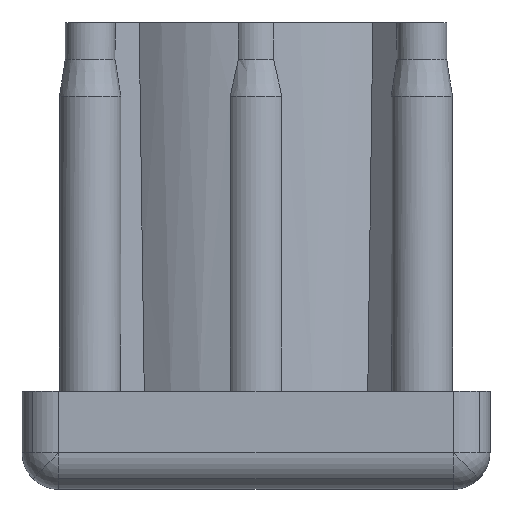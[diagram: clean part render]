
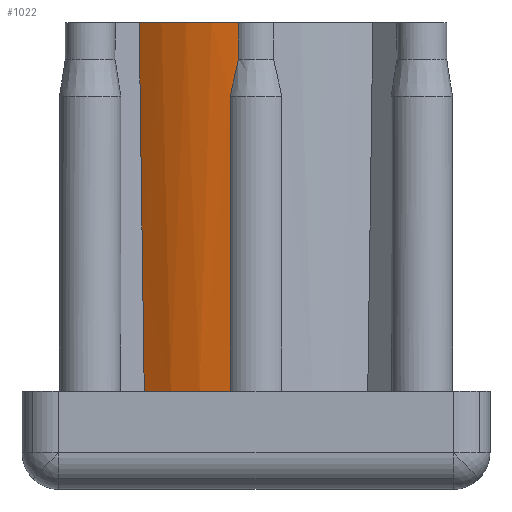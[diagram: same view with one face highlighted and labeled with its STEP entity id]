
A CAD part, front view. The second image highlights one B-rep face of the part: STEP entity #1022.
In plain terms, the highlighted cylindrical face has radius 15 mm (diameter 30 mm), a partial arc.
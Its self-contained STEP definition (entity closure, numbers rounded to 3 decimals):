
#58 = CIRCLE ( 'NONE', #1416, 48254.36 ) ;
#100 = DIRECTION ( 'NONE',  ( 0., 0., 1. ) ) ;
#159 = EDGE_CURVE ( 'NONE', #3052, #3146, #514, .T. ) ;
#210 = ORIENTED_EDGE ( 'NONE', *, *, #1707, .F. ) ;
#269 = DIRECTION ( 'NONE',  ( -1., 0., 0. ) ) ;
#290 = VERTEX_POINT ( 'NONE', #3672 ) ;
#363 = ORIENTED_EDGE ( 'NONE', *, *, #159, .T. ) ;
#372 = CARTESIAN_POINT ( 'NONE',  ( -9.511, -11.599, 37.25 ) ) ;
#378 = AXIS2_PLACEMENT_3D ( 'NONE', #1736, #543, #269 ) ;
#427 = CARTESIAN_POINT ( 'NONE',  ( -1.856, -14.887, 32.442 ) ) ;
#444 = EDGE_CURVE ( 'NONE', #805, #290, #1760, .T. ) ;
#474 = AXIS2_PLACEMENT_3D ( 'NONE', #1509, #1553, #2699 ) ;
#514 = LINE ( 'NONE', #2935, #3097 ) ;
#543 = DIRECTION ( 'NONE',  ( 0., 0., -1. ) ) ;
#674 = DIRECTION ( 'NONE',  ( 0.707, -0.707, 0.017 ) ) ;
#699 = CYLINDRICAL_SURFACE ( 'NONE', #378, 15. ) ;
#713 = ORIENTED_EDGE ( 'NONE', *, *, #444, .T. ) ;
#749 = EDGE_CURVE ( 'NONE', #3390, #3052, #2421, .T. ) ;
#776 = CARTESIAN_POINT ( 'NONE',  ( 0., 0., 7.25 ) ) ;
#805 = VERTEX_POINT ( 'NONE', #3626 ) ;
#809 = ORIENTED_EDGE ( 'NONE', *, *, #2227, .T. ) ;
#1022 = ADVANCED_FACE ( 'NONE', ( #2668 ), #699, .T. ) ;
#1071 = ORIENTED_EDGE ( 'NONE', *, *, #749, .T. ) ;
#1378 = DIRECTION ( 'NONE',  ( 1., 0., 0. ) ) ;
#1416 = AXIS2_PLACEMENT_3D ( 'NONE', #3020, #674, #3327 ) ;
#1509 = CARTESIAN_POINT ( 'NONE',  ( 0., 0., 37.25 ) ) ;
#1547 = ORIENTED_EDGE ( 'NONE', *, *, #3347, .T. ) ;
#1553 = DIRECTION ( 'NONE',  ( 0., 0., 1. ) ) ;
#1707 = EDGE_CURVE ( 'NONE', #3561, #3146, #3494, .T. ) ;
#1736 = CARTESIAN_POINT ( 'NONE',  ( 0., 0., 37.25 ) ) ;
#1760 = CIRCLE ( 'NONE', #2304, 15. ) ;
#1916 = CARTESIAN_POINT ( 'NONE',  ( -1.432, -14.931, 37.25 ) ) ;
#2150 = CARTESIAN_POINT ( 'NONE',  ( -1.632, -14.912, 33.442 ) ) ;
#2227 = EDGE_CURVE ( 'NONE', #3561, #805, #58, .T. ) ;
#2304 = AXIS2_PLACEMENT_3D ( 'NONE', #776, #3130, #1378 ) ;
#2384 = CARTESIAN_POINT ( 'NONE',  ( -2.103, -14.852, 31.25 ) ) ;
#2421 = B_SPLINE_CURVE_WITH_KNOTS ( 'NONE', 3,
 ( #3359, #427, #2150, #3023 ),
 .UNSPECIFIED., .F., .F.,
 ( 4, 4 ),
 ( 0., 1. ),
 .UNSPECIFIED. ) ;
#2668 = FACE_OUTER_BOUND ( 'NONE', #3618, .T. ) ;
#2699 = DIRECTION ( 'NONE',  ( 1., 0., 0. ) ) ;
#2752 = VECTOR ( 'NONE', #3245, 1000. ) ;
#2935 = CARTESIAN_POINT ( 'NONE',  ( -1.432, -14.931, 35.75 ) ) ;
#3020 = CARTESIAN_POINT ( 'NONE',  ( 34110.396, 34110.363, 120.499 ) ) ;
#3023 = CARTESIAN_POINT ( 'NONE',  ( -1.432, -14.931, 34.25 ) ) ;
#3052 = VERTEX_POINT ( 'NONE', #3633 ) ;
#3097 = VECTOR ( 'NONE', #100, 1000. ) ;
#3130 = DIRECTION ( 'NONE',  ( 0., 0., 1. ) ) ;
#3146 = VERTEX_POINT ( 'NONE', #1916 ) ;
#3245 = DIRECTION ( 'NONE',  ( 0., 0., 1. ) ) ;
#3327 = DIRECTION ( 'NONE',  ( -0.707, -0.707, -0.002 ) ) ;
#3347 = EDGE_CURVE ( 'NONE', #290, #3390, #3538, .T. ) ;
#3359 = CARTESIAN_POINT ( 'NONE',  ( -2.103, -14.852, 31.25 ) ) ;
#3390 = VERTEX_POINT ( 'NONE', #2384 ) ;
#3440 = CARTESIAN_POINT ( 'NONE',  ( -2.103, -14.852, 22.25 ) ) ;
#3494 = CIRCLE ( 'NONE', #474, 15. ) ;
#3538 = LINE ( 'NONE', #3440, #2752 ) ;
#3561 = VERTEX_POINT ( 'NONE', #372 ) ;
#3618 = EDGE_LOOP ( 'NONE', ( #210, #809, #713, #1547, #1071, #363 ) ) ;
#3626 = CARTESIAN_POINT ( 'NONE',  ( -9.098, -11.926, 7.25 ) ) ;
#3633 = CARTESIAN_POINT ( 'NONE',  ( -1.432, -14.931, 34.25 ) ) ;
#3672 = CARTESIAN_POINT ( 'NONE',  ( -2.103, -14.852, 7.25 ) ) ;
